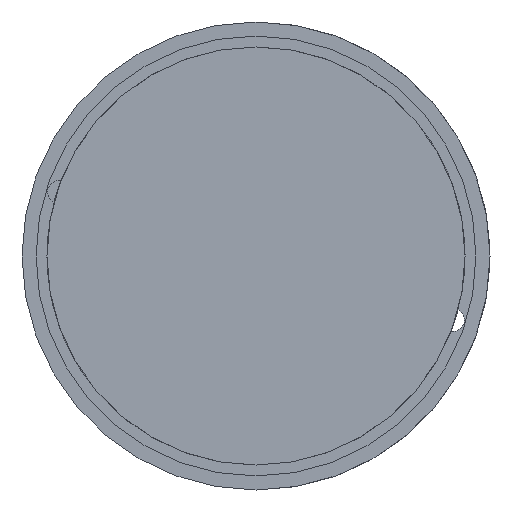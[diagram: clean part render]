
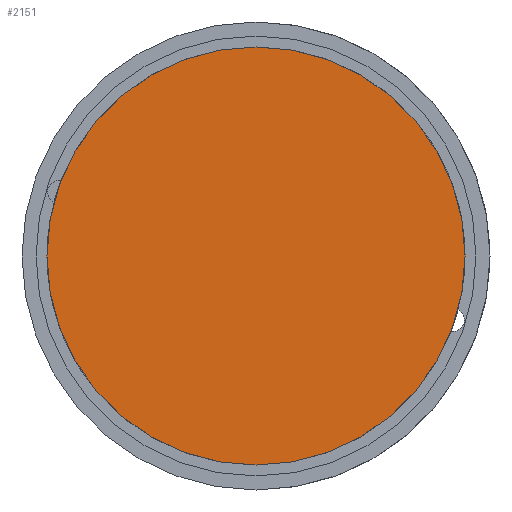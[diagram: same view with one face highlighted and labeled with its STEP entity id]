
A CAD part, front view. The second image highlights one B-rep face of the part: STEP entity #2151.
In plain terms, the highlighted planar face has unit normal (0, -1, 0).
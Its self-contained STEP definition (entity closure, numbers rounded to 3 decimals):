
#230 = ORIENTED_EDGE ( 'NONE', *, *, #273, .T. ) ;
#273 = EDGE_CURVE ( 'NONE', #4111, #2442, #5205, .T. ) ;
#629 = EDGE_LOOP ( 'NONE', ( #230, #4998 ) ) ;
#778 = DIRECTION ( 'NONE',  ( 0., 0., -1. ) ) ;
#806 = CARTESIAN_POINT ( 'NONE',  ( 0., 0., 0. ) ) ;
#893 = PLANE ( 'NONE',  #3223 ) ;
#947 = CARTESIAN_POINT ( 'NONE',  ( 0., 0., 67. ) ) ;
#1082 = CARTESIAN_POINT ( 'NONE',  ( 0., 0., 0. ) ) ;
#1312 = FACE_OUTER_BOUND ( 'NONE', #629, .T. ) ;
#1867 = AXIS2_PLACEMENT_3D ( 'NONE', #1082, #2155, #3785 ) ;
#2151 = ADVANCED_FACE ( 'NONE', ( #1312 ), #893, .T. ) ;
#2155 = DIRECTION ( 'NONE',  ( 0., -1., 0. ) ) ;
#2442 = VERTEX_POINT ( 'NONE', #947 ) ;
#3223 = AXIS2_PLACEMENT_3D ( 'NONE', #4408, #5538, #778 ) ;
#3785 = DIRECTION ( 'NONE',  ( 0., 0., -1. ) ) ;
#3879 = EDGE_CURVE ( 'NONE', #2442, #4111, #4584, .T. ) ;
#4111 = VERTEX_POINT ( 'NONE', #6358 ) ;
#4408 = CARTESIAN_POINT ( 'NONE',  ( 0., 0., 0. ) ) ;
#4457 = DIRECTION ( 'NONE',  ( 0., 0., -1. ) ) ;
#4577 = AXIS2_PLACEMENT_3D ( 'NONE', #806, #4926, #4457 ) ;
#4584 = CIRCLE ( 'NONE', #4577, 67. ) ;
#4926 = DIRECTION ( 'NONE',  ( 0., -1., 0. ) ) ;
#4998 = ORIENTED_EDGE ( 'NONE', *, *, #3879, .T. ) ;
#5205 = CIRCLE ( 'NONE', #1867, 67. ) ;
#5538 = DIRECTION ( 'NONE',  ( 0., -1., 0. ) ) ;
#6358 = CARTESIAN_POINT ( 'NONE',  ( 0., 0., -67. ) ) ;
